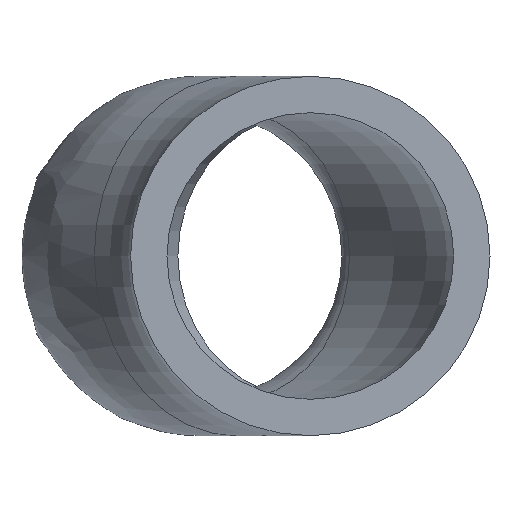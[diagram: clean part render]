
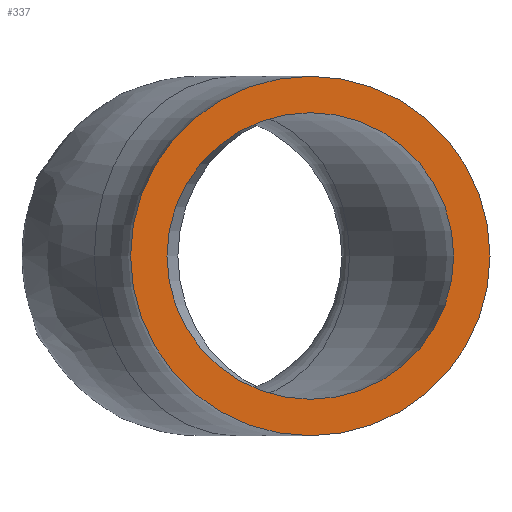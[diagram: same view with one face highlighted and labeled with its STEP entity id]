
A CAD part, front view. The second image highlights one B-rep face of the part: STEP entity #337.
In plain terms, the highlighted planar face has unit normal (0, -1, 0).
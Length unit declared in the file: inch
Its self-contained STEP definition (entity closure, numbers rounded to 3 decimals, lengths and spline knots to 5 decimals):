
#72=FACE_BOUND('',#108,.T.);
#86=FACE_OUTER_BOUND('',#107,.T.);
#107=EDGE_LOOP('',(#284,#285));
#108=EDGE_LOOP('',(#286,#287));
#142=CIRCLE('',#403,0.6575);
#143=CIRCLE('',#404,0.6575);
#144=CIRCLE('',#406,0.5245);
#145=CIRCLE('',#407,0.5245);
#173=VERTEX_POINT('',#658);
#174=VERTEX_POINT('',#659);
#175=VERTEX_POINT('',#664);
#176=VERTEX_POINT('',#665);
#211=EDGE_CURVE('',#173,#174,#142,.T.);
#212=EDGE_CURVE('',#174,#173,#143,.T.);
#214=EDGE_CURVE('',#175,#176,#144,.T.);
#215=EDGE_CURVE('',#176,#175,#145,.T.);
#284=ORIENTED_EDGE('',*,*,#211,.T.);
#285=ORIENTED_EDGE('',*,*,#212,.T.);
#286=ORIENTED_EDGE('',*,*,#214,.F.);
#287=ORIENTED_EDGE('',*,*,#215,.F.);
#305=PLANE('',#405);
#337=ADVANCED_FACE('',(#86,#72),#305,.T.);
#403=AXIS2_PLACEMENT_3D('',#660,#514,#515);
#404=AXIS2_PLACEMENT_3D('',#661,#516,#517);
#405=AXIS2_PLACEMENT_3D('',#663,#519,#520);
#406=AXIS2_PLACEMENT_3D('',#666,#521,#522);
#407=AXIS2_PLACEMENT_3D('',#667,#523,#524);
#514=DIRECTION('center_axis',(0.,-1.,0.));
#515=DIRECTION('ref_axis',(1.,0.,0.));
#516=DIRECTION('center_axis',(0.,-1.,0.));
#517=DIRECTION('ref_axis',(1.,0.,0.));
#519=DIRECTION('center_axis',(0.,-1.,0.));
#520=DIRECTION('ref_axis',(0.,0.,-1.));
#521=DIRECTION('center_axis',(0.,-1.,0.));
#522=DIRECTION('ref_axis',(1.,0.,0.));
#523=DIRECTION('center_axis',(0.,-1.,0.));
#524=DIRECTION('ref_axis',(1.,0.,0.));
#658=CARTESIAN_POINT('',(0.6575,0.,0.));
#659=CARTESIAN_POINT('',(-0.6575,0.,0.));
#660=CARTESIAN_POINT('Origin',(0.,0.,0.));
#661=CARTESIAN_POINT('Origin',(0.,0.,0.));
#663=CARTESIAN_POINT('Origin',(0.5245,0.,0.));
#664=CARTESIAN_POINT('',(0.5245,0.,0.));
#665=CARTESIAN_POINT('',(-0.5245,0.,0.));
#666=CARTESIAN_POINT('Origin',(0.,0.,0.));
#667=CARTESIAN_POINT('Origin',(0.,0.,0.));
